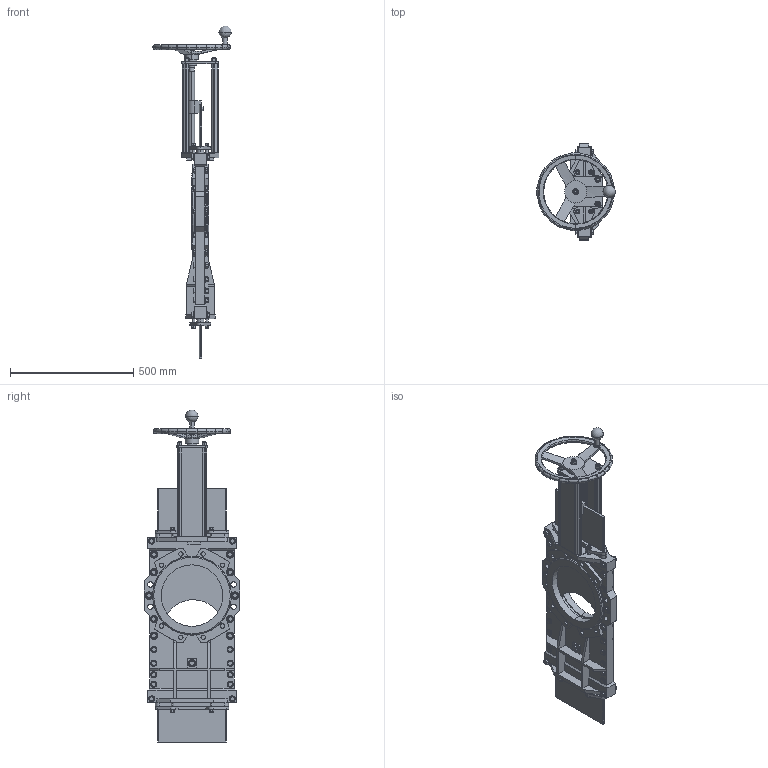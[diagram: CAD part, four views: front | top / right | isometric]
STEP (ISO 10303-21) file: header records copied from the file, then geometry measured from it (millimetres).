
FILE_DESCRIPTION(('STEP AP203'),'1');
FILE_NAME('G:/KONSTRUK/3-d block för CD/HG VALVE/HAND WHEEL/HG250-PN10-HW.stp','2012-12-03T09:40:46',(' '),(' '),'Spatial InterOp 3D',' ',' ');
FILE_SCHEMA(('CONFIG_CONTROL_DESIGN'));
Length unit declared in the file: millimetre
Products named in the file (1): 1
Bounding box: 318.96 x 390 x 1349.31 mm (x, y, z)
Volume: 13549832.3 mm3; surface area: 1883257 mm2
Topology: 1 solids, 51 shells, 2680 faces, 6297 edges, 3932 vertices
Faces by surface type: plane 1024, cone 923, cylinder 667, torus 60, bspline 4, sphere 2
Entity records: 82853 total; most frequent: CARTESIAN_POINT 21271, DIRECTION 13123, ORIENTED_EDGE 12586, EDGE_CURVE 6293, AXIS2_PLACEMENT_3D 5358, VERTEX_POINT 3932, EDGE_LOOP 3043, ADVANCED_FACE 2680
